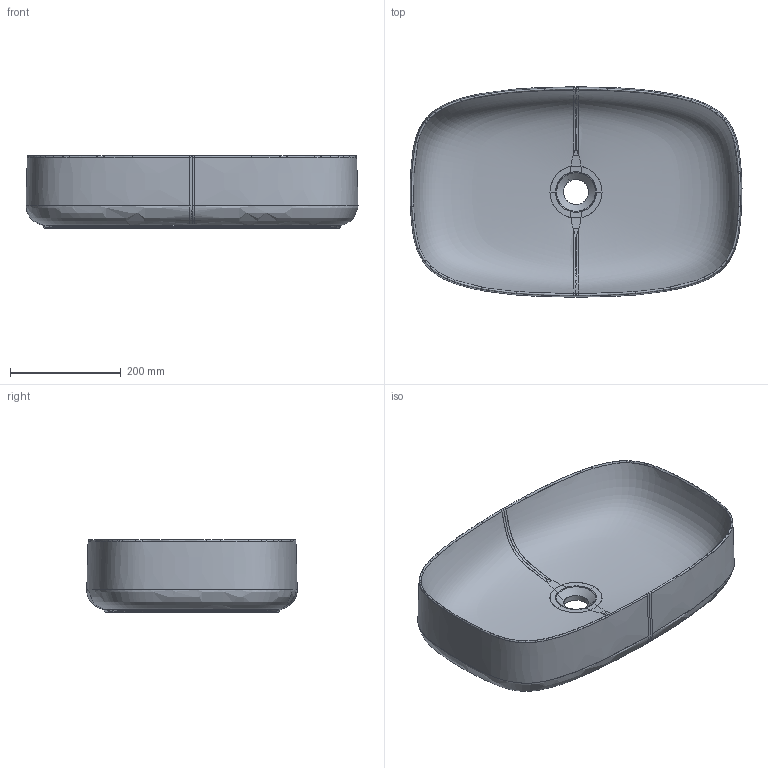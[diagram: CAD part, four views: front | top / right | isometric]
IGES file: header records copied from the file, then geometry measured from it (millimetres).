
Start section: START RECORD GO HERE.
Global section: file name: 3D ART 8123 ELITE 38.igs; native system: DASSAULT SYSTEMES CATIA V5 R19 - www.3ds.com; preprocessor: CATIA Version 5 Release 19 SP 5 ; author: Luca; organization: DESKTOP-V7SON24; date: 20210615.103955; units: millimetre
Bounding box: 600.08 x 380.24 x 131.62 mm (x, y, z)
Surface area: 707115.2 mm2 (no closed solid volume)
Topology: 0 solids, 0 shells, 263 faces, 1206 edges, 1200 vertices
Faces by surface type: bspline 262, plane 1
